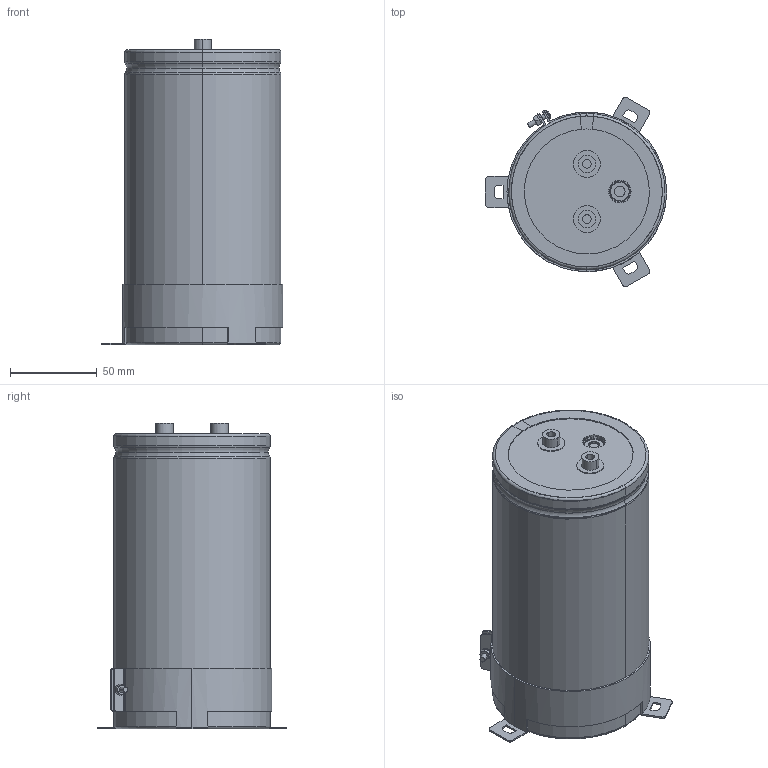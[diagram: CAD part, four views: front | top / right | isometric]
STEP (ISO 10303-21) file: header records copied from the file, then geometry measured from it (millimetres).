
FILE_DESCRIPTION(('STEP AP214'),'1');
FILE_NAME('90x170_Screw.stp','2022-03-14T08:53:54',(' '),(' '),'Spatial InterOp 3D',' ',' ');
FILE_SCHEMA(('AUTOMOTIVE_DESIGN { 1 0 10303 214 1 1 1 1 }'));
Length unit declared in the file: metre
Products named in the file (10): 90x170_Screw; Component1; Component2; Component3; Component4; Component5; Component6; Component7; Component8; Component9
Assembly tree (9 placements, depth 2):
  90x170_Screw
    Component1
    Component2
    Component3
    Component4
    Component5
    Component6
    Component7
    Component8
    Component9
Bounding box: 104.5 x 108.86 x 176 mm (x, y, z)
Volume: 1084053.6 mm3; surface area: 183569.3 mm2
Topology: 9 solids, 9 shells, 352 faces, 873 edges, 551 vertices
Faces by surface type: plane 112, cylinder 110, torus 90, cone 38, sphere 2
Entity records: 11474 total; most frequent: DIRECTION 2126, CARTESIAN_POINT 1918, ORIENTED_EDGE 1746, AXIS2_PLACEMENT_3D 919, EDGE_CURVE 873, VERTEX_POINT 551, CIRCLE 511, EDGE_LOOP 380
